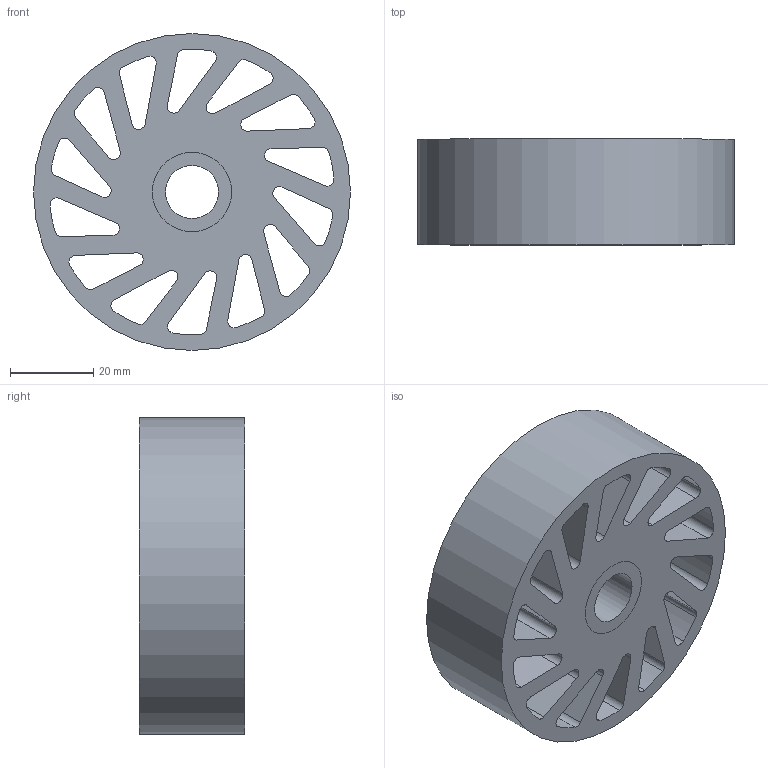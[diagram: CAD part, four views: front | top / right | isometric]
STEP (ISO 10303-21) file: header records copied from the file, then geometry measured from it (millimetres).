
FILE_DESCRIPTION(/* description */ (''),/* implementation_level */ '2;1');
FILE_NAME(/* name */ 'C:\Users\Owner\Desktop\Meridian Stuff\Oilite\NCWOB-660-XXX.stp',/* time_stamp */ '2023-05-22T16:40:19-05:00',/* author */ ('ASG'),/* organization */ ('Meridian Laboratory '),/* preprocessor_version */ 'ST-DEVELOPER v19',/* originating_system */ 'Autodesk Inventor 2023',/* authorisation */ '');
FILE_SCHEMA (('AUTOMOTIVE_DESIGN { 1 0 10303 214 3 1 1 }'));
Length unit declared in the file: inch
Products named in the file (1): NCWOB-640-XXX
Bounding box: 76.2 x 25.4 x 76.2 mm (x, y, z)
Volume: 77260.9 mm3; surface area: 31596.3 mm2
Topology: 2 solids, 2 shells, 92 faces, 264 edges, 176 vertices
Faces by surface type: cylinder 60, plane 32
Full cylindrical faces by diameter (mm): 12.738 x1, 19.05 x2, 76.2 x1
Entity records: 3285 total; most frequent: DIRECTION 570, CARTESIAN_POINT 533, ORIENTED_EDGE 528, EDGE_CURVE 264, AXIS2_PLACEMENT_3D 213, VERTEX_POINT 176, LINE 144, VECTOR 144
